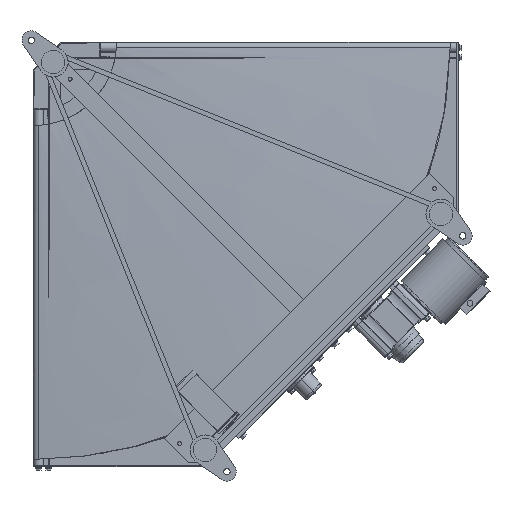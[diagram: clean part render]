
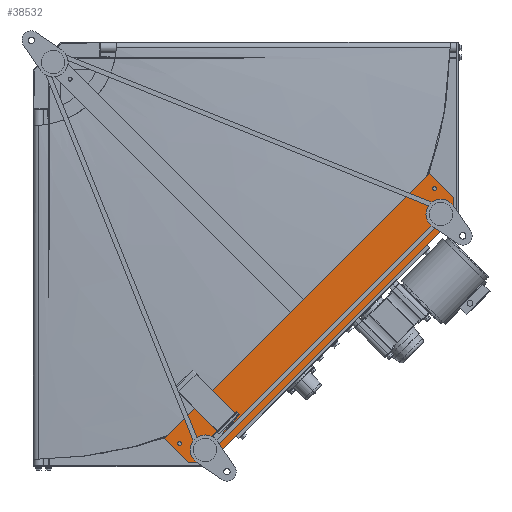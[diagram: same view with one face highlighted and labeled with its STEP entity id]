
A CAD part, front view. The second image highlights one B-rep face of the part: STEP entity #38532.
In plain terms, the highlighted planar face has unit normal (0, -1, 0).
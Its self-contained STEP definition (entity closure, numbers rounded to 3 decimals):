
#955 = ORIENTED_EDGE ( 'NONE', *, *, #15396, .F. ) ;
#1985 = ORIENTED_EDGE ( 'NONE', *, *, #30834, .F. ) ;
#4338 = DIRECTION ( 'NONE',  ( 0.707, 0., 0.707 ) ) ;
#5056 = VERTEX_POINT ( 'NONE', #34924 ) ;
#6646 = ORIENTED_EDGE ( 'NONE', *, *, #41380, .F. ) ;
#6648 = DIRECTION ( 'NONE',  ( -1., 0., 0. ) ) ;
#6725 = EDGE_CURVE ( 'NONE', #5056, #26118, #21782, .T. ) ;
#8491 = CARTESIAN_POINT ( 'NONE',  ( 358.15, -167.5, -856.66 ) ) ;
#8787 = LINE ( 'NONE', #10903, #30244 ) ;
#10903 = CARTESIAN_POINT ( 'NONE',  ( 266.226, -167.5, -807.162 ) ) ;
#11310 = CARTESIAN_POINT ( 'NONE',  ( 0., -167.5, 0. ) ) ;
#11410 = DIRECTION ( 'NONE',  ( -0.707, 0., -0.707 ) ) ;
#13155 = LINE ( 'NONE', #22254, #25556 ) ;
#13453 = VERTEX_POINT ( 'NONE', #23999 ) ;
#13525 = CARTESIAN_POINT ( 'NONE',  ( 856.66, -167.5, -358.15 ) ) ;
#14032 = LINE ( 'NONE', #37047, #36567 ) ;
#15396 = EDGE_CURVE ( 'NONE', #13453, #22856, #21707, .T. ) ;
#16522 = EDGE_LOOP ( 'NONE', ( #955, #43225, #6646, #23978, #19694, #1985 ) ) ;
#16692 = CARTESIAN_POINT ( 'NONE',  ( 856.66, -167.5, -358.15 ) ) ;
#18076 = DIRECTION ( 'NONE',  ( -0.707, 0., 0.707 ) ) ;
#19161 = CARTESIAN_POINT ( 'NONE',  ( 266.226, -167.5, -807.162 ) ) ;
#19694 = ORIENTED_EDGE ( 'NONE', *, *, #37323, .F. ) ;
#20272 = EDGE_CURVE ( 'NONE', #28936, #13453, #39967, .T. ) ;
#21707 = LINE ( 'NONE', #16692, #28632 ) ;
#21709 = DIRECTION ( 'NONE',  ( 0., 1., 0. ) ) ;
#21782 = LINE ( 'NONE', #38578, #33036 ) ;
#22019 = DIRECTION ( 'NONE',  ( 0., 0., 1. ) ) ;
#22254 = CARTESIAN_POINT ( 'NONE',  ( 358.15, -167.5, -856.66 ) ) ;
#22448 = CARTESIAN_POINT ( 'NONE',  ( 807.162, -167.5, -266.226 ) ) ;
#22856 = VERTEX_POINT ( 'NONE', #13525 ) ;
#23978 = ORIENTED_EDGE ( 'NONE', *, *, #6725, .F. ) ;
#23999 = CARTESIAN_POINT ( 'NONE',  ( 856.66, -167.5, -315.723 ) ) ;
#25297 = PLANE ( 'NONE',  #33034 ) ;
#25556 = VECTOR ( 'NONE', #11410, 1000. ) ;
#26118 = VERTEX_POINT ( 'NONE', #19161 ) ;
#28632 = VECTOR ( 'NONE', #41119, 1000. ) ;
#28936 = VERTEX_POINT ( 'NONE', #35752 ) ;
#30244 = VECTOR ( 'NONE', #4338, 1000. ) ;
#30834 = EDGE_CURVE ( 'NONE', #22856, #38629, #13155, .T. ) ;
#30856 = VECTOR ( 'NONE', #34854, 1000. ) ;
#33034 = AXIS2_PLACEMENT_3D ( 'NONE', #11310, #21709, #22019 ) ;
#33036 = VECTOR ( 'NONE', #18076, 1000. ) ;
#34854 = DIRECTION ( 'NONE',  ( 0.707, 0., -0.707 ) ) ;
#34924 = CARTESIAN_POINT ( 'NONE',  ( 315.723, -167.5, -856.66 ) ) ;
#35752 = CARTESIAN_POINT ( 'NONE',  ( 807.162, -167.5, -266.226 ) ) ;
#36567 = VECTOR ( 'NONE', #6648, 1000. ) ;
#37047 = CARTESIAN_POINT ( 'NONE',  ( 315.723, -167.5, -856.66 ) ) ;
#37323 = EDGE_CURVE ( 'NONE', #38629, #5056, #14032, .T. ) ;
#38532 = ADVANCED_FACE ( 'NONE', ( #42336 ), #25297, .F. ) ;
#38578 = CARTESIAN_POINT ( 'NONE',  ( 266.226, -167.5, -807.162 ) ) ;
#38629 = VERTEX_POINT ( 'NONE', #8491 ) ;
#39967 = LINE ( 'NONE', #22448, #30856 ) ;
#41119 = DIRECTION ( 'NONE',  ( 0., 0., -1. ) ) ;
#41380 = EDGE_CURVE ( 'NONE', #26118, #28936, #8787, .T. ) ;
#42336 = FACE_OUTER_BOUND ( 'NONE', #16522, .T. ) ;
#43225 = ORIENTED_EDGE ( 'NONE', *, *, #20272, .F. ) ;
